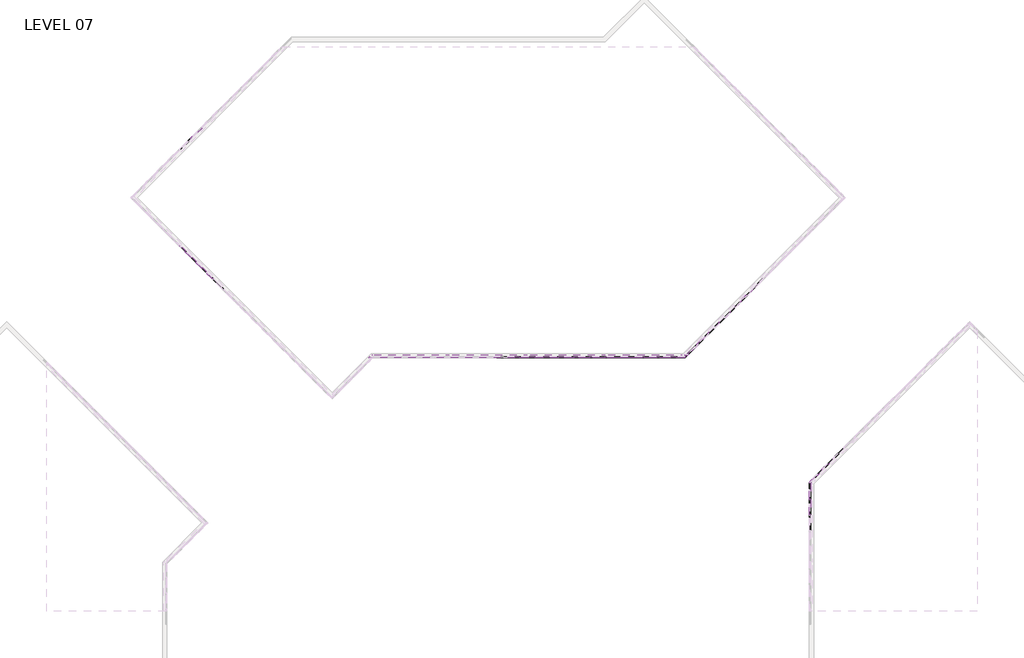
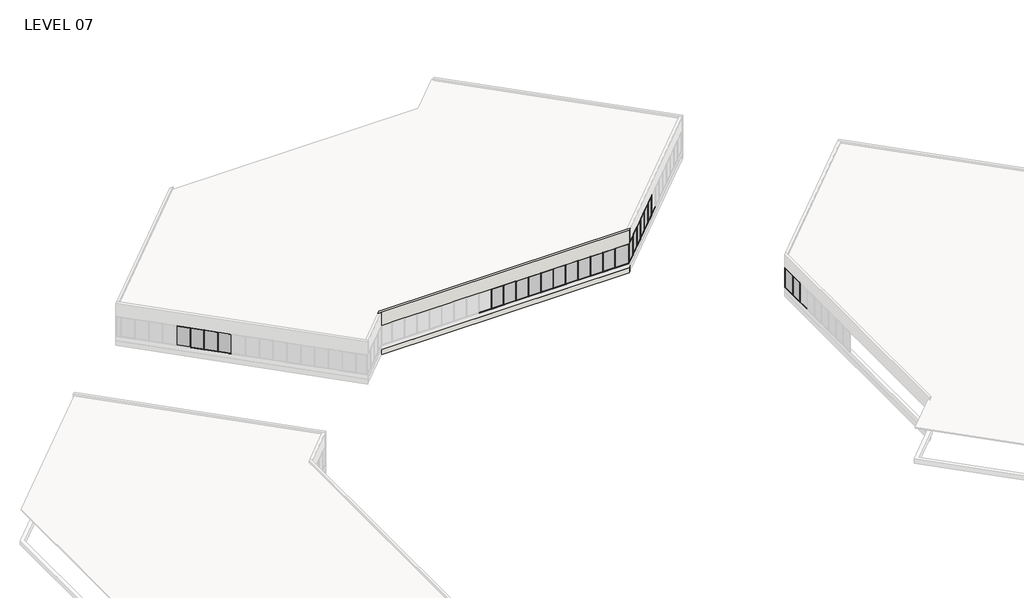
# One storey, part 14 of 18: 82 members, 26 plates, 2 walls.
"""IFC4 building model written with IfcOpenShell, lengths in millimetres."""

from ifc_helpers import new_model, si_unit, origin, place, context, project, spatial, faceted_brep, transform, mapped, element, save
from components import member_5247f267, member_e44af9ab, member_800970d4, member_1bd862b2, member_7ca0f77f, member_c975838b, plate_67294edd, plate_bbcbcabf, plate_e0fd5134, plate_db5d6751

model = new_model("IFC4")

# Units and contexts
model_context = context("Model", 3, world=origin())
ifc_project = project(units=[si_unit("LENGTHUNIT", "METRE", prefix="MILLI")], contexts=[model_context])

# Site, building, storey
site = spatial("IfcSite", under=ifc_project)
building = spatial("IfcBuilding", under=site)
storey = spatial("IfcBuildingStorey", under=building, Name="LEVEL 07", Elevation=23368.0)

# Members
placement = place(None, origin())
member_shape = member_5247f267(model_context)
element("IfcMember", 1, ObjectType="Rectangular Mullion : 2\" x 4.5\" rectangular", at=placement, inside=storey, context=model_context, shape_type="MappedRepresentation", body=[
    mapped(member_shape, transform((776.6134818, 110294.3219224, 23368.0), x_axis=(0.0, 0.0, -1.0), y_axis=(-0.7071067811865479, 0.7071067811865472, 0.0), z_axis=(0.7071067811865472, 0.7071067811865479, 0.0))),
])
element("IfcMember", 2, ObjectType="Rectangular Mullion : 2\" x 4.5\" rectangular", at=placement, inside=storey, context=model_context, shape_type="MappedRepresentation", body=[
    mapped(member_shape, transform((812.713179, 98753.3329903, 23368.0), x_axis=(0.0, 0.0, -1.0), y_axis=(-0.7071067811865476, -0.7071067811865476, 0.0), z_axis=(-0.7071067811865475, 0.7071067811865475, 0.0))),
])
element("IfcMember", 3, ObjectType="Rectangular Mullion : 2\" x 4.5\" rectangular", at=placement, inside=storey, context=model_context, shape_type="MappedRepresentation", body=[
    mapped(member_shape, transform((1890.3439135, 97675.7022558, 23368.0), x_axis=(0.0, 0.0, -1.0), y_axis=(-0.7071067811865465, -0.7071067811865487, 0.0), z_axis=(-0.7071067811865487, 0.7071067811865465, 0.0))),
])
element("IfcMember", 4, ObjectType="Rectangular Mullion : 2\" x 4.5\" rectangular", at=placement, inside=storey, context=model_context, shape_type="MappedRepresentation", body=[
    mapped(member_shape, transform((2967.974648, 96598.0715213, 23368.0), x_axis=(0.0, 0.0, -1.0), y_axis=(-0.7071067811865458, -0.7071067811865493, 0.0), z_axis=(-0.7071067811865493, 0.7071067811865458, 0.0))),
])
element("IfcMember", 5, ObjectType="Rectangular Mullion : 2\" x 4.5\" rectangular", at=placement, inside=storey, context=model_context, shape_type="MappedRepresentation", body=[
    mapped(member_shape, transform((38182.55, 88955.8023049, 23368.0), x_axis=(0.0, 0.0, -1.0), y_axis=(0.0, 1.0, 0.0), z_axis=(1.0, 0.0, 0.0))),
])
element("IfcMember", 6, ObjectType="Rectangular Mullion : 2\" x 4.5\" rectangular", at=placement, inside=storey, context=model_context, shape_type="MappedRepresentation", body=[
    mapped(member_shape, transform((36658.55, 88955.8023049, 23368.0), x_axis=(0.0, 0.0, -1.0), y_axis=(0.0, 1.0, 0.0), z_axis=(1.0, 0.0, 0.0))),
])
element("IfcMember", 7, ObjectType="Rectangular Mullion : 2\" x 4.5\" rectangular", at=placement, inside=storey, context=model_context, shape_type="MappedRepresentation", body=[
    mapped(member_shape, transform((35134.55, 88955.8023049, 23368.0), x_axis=(0.0, 0.0, -1.0), y_axis=(0.0, 1.0, 0.0), z_axis=(1.0, 0.0, 0.0))),
])
element("IfcMember", 8, ObjectType="Rectangular Mullion : 2\" x 4.5\" rectangular", at=placement, inside=storey, context=model_context, shape_type="MappedRepresentation", body=[
    mapped(member_shape, transform((32086.55, 88955.8023049, 23368.0), x_axis=(0.0, 0.0, -1.0), y_axis=(0.0, 1.0, 0.0), z_axis=(1.0, 0.0, 0.0))),
])
element("IfcMember", 9, ObjectType="Rectangular Mullion : 2\" x 4.5\" rectangular", at=placement, inside=storey, context=model_context, shape_type="MappedRepresentation", body=[
    mapped(member_shape, transform((33610.55, 88955.8023049, 23368.0), x_axis=(0.0, 0.0, -1.0), y_axis=(0.0, 1.0, 0.0), z_axis=(1.0, 0.0, 0.0))),
])
element("IfcMember", 10, ObjectType="Rectangular Mullion : 2\" x 4.5\" rectangular", at=placement, inside=storey, context=model_context, shape_type="MappedRepresentation", body=[
    mapped(member_shape, transform((39706.55, 88955.8023049, 23368.0), x_axis=(0.0, 0.0, -1.0), y_axis=(0.0, 1.0, 0.0), z_axis=(1.0, 0.0, 0.0))),
])
element("IfcMember", 11, ObjectType="Rectangular Mullion : 2\" x 4.5\" rectangular", at=placement, inside=storey, context=model_context, shape_type="MappedRepresentation", body=[
    mapped(member_shape, transform((41230.55, 88955.8023049, 23368.0), x_axis=(0.0, 0.0, -1.0), y_axis=(0.0, 1.0, 0.0), z_axis=(1.0, 0.0, 0.0))),
])
element("IfcMember", 12, ObjectType="Rectangular Mullion : 2\" x 4.5\" rectangular", at=placement, inside=storey, context=model_context, shape_type="MappedRepresentation", body=[
    mapped(member_shape, transform((42754.55, 88955.8023049, 23368.0), x_axis=(0.0, 0.0, -1.0), y_axis=(0.0, 1.0, 0.0), z_axis=(1.0, 0.0, 0.0))),
])
element("IfcMember", 13, ObjectType="Rectangular Mullion : 2\" x 4.5\" rectangular", at=placement, inside=storey, context=model_context, shape_type="MappedRepresentation", body=[
    mapped(member_shape, transform((44278.55, 88955.8023049, 23368.0), x_axis=(0.0, 0.0, -1.0), y_axis=(0.0, 1.0, 0.0), z_axis=(1.0, 0.0, 0.0))),
])
element("IfcMember", 14, ObjectType="Rectangular Mullion : 2\" x 4.5\" rectangular", at=placement, inside=storey, context=model_context, shape_type="MappedRepresentation", body=[
    mapped(member_shape, transform((45802.55, 88955.8023049, 23368.0), x_axis=(0.0, 0.0, -1.0), y_axis=(0.0, 1.0, 0.0), z_axis=(1.0, 0.0, 0.0))),
])
element("IfcMember", 15, ObjectType="Rectangular Mullion : 2\" x 4.5\" rectangular", at=placement, inside=storey, context=model_context, shape_type="MappedRepresentation", body=[
    mapped(member_shape, transform((47326.55, 88955.8023049, 23368.0), x_axis=(0.0, 0.0, -1.0), y_axis=(0.0, 1.0, 0.0), z_axis=(1.0, 0.0, 0.0))),
])
element("IfcMember", 16, ObjectType="Rectangular Mullion : 2\" x 4.5\" rectangular", at=placement, inside=storey, context=model_context, shape_type="MappedRepresentation", body=[
    mapped(member_shape, transform((51331.7667125, 91245.9128818, 23368.0), x_axis=(0.0, 0.0, -1.0), y_axis=(0.7071067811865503, -0.7071067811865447, 0.0), z_axis=(-0.7071067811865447, -0.7071067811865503, 0.0))),
])
element("IfcMember", 17, ObjectType="Rectangular Mullion : 2\" x 4.5\" rectangular", at=placement, inside=storey, context=model_context, shape_type="MappedRepresentation", body=[
    mapped(member_shape, transform((52409.397447, 92323.5436163, 23368.0), x_axis=(0.0, 0.0, -1.0), y_axis=(0.7071067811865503, -0.7071067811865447, 0.0), z_axis=(-0.7071067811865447, -0.7071067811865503, 0.0))),
])
element("IfcMember", 18, ObjectType="Rectangular Mullion : 2\" x 4.5\" rectangular", at=placement, inside=storey, context=model_context, shape_type="MappedRepresentation", body=[
    mapped(member_shape, transform((53487.0281815, 93401.1743508, 23368.0), x_axis=(0.0, 0.0, -1.0), y_axis=(0.7071067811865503, -0.7071067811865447, 0.0), z_axis=(-0.7071067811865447, -0.7071067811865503, 0.0))),
])
element("IfcMember", 19, ObjectType="Rectangular Mullion : 2\" x 4.5\" rectangular", at=placement, inside=storey, context=model_context, shape_type="MappedRepresentation", body=[
    mapped(member_shape, transform((55642.2748488, 95556.4210181, 23368.0), x_axis=(0.0, 0.0, -1.0), y_axis=(0.7071067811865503, -0.7071067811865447, 0.0), z_axis=(-0.7071067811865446, -0.7071067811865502, 0.0))),
])
element("IfcMember", 20, ObjectType="Rectangular Mullion : 2\" x 4.5\" rectangular", at=placement, inside=storey, context=model_context, shape_type="MappedRepresentation", body=[
    mapped(member_shape, transform((50254.1359779, 90168.2821472, 23368.0), x_axis=(0.0, 0.0, -1.0), y_axis=(0.7071067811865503, -0.7071067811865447, 0.0), z_axis=(-0.7071067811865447, -0.7071067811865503, 0.0))),
])
element("IfcMember", 21, ObjectType="Rectangular Mullion : 2\" x 4.5\" rectangular", at=placement, inside=storey, context=model_context, shape_type="MappedRepresentation", body=[
    mapped(member_shape, transform((54564.6515152, 94478.7976845, 23368.0), x_axis=(0.0, 0.0, -1.0), y_axis=(0.7071067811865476, -0.7071067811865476, 0.0), z_axis=(-0.7071067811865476, -0.7071067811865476, 0.0))),
])
element("IfcMember", 22, ObjectType="Rectangular Mullion : 2\" x 4.5\" rectangular", at=placement, inside=storey, context=model_context, shape_type="MappedRepresentation", body=[
    mapped(member_shape, transform((812.5345063, 110330.2429469, 25958.8), x_axis=(0.0, 0.0, 1.0), y_axis=(-0.7071067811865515, 0.7071067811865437, 0.0), z_axis=(-0.7071067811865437, -0.7071067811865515, 0.0))),
])
element("IfcMember", 23, ObjectType="Rectangular Mullion : 2\" x 4.5\" rectangular", at=placement, inside=storey, context=model_context, shape_type="MappedRepresentation", body=[
    mapped(member_shape, transform((776.7921545, 98789.2540148, 25958.8), x_axis=(0.0, 0.0, 1.0), y_axis=(-0.7071067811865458, -0.7071067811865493, 0.0), z_axis=(0.7071067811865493, -0.7071067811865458, 0.0))),
])
element("IfcMember", 24, ObjectType="Rectangular Mullion : 2\" x 4.5\" rectangular", at=placement, inside=storey, context=model_context, shape_type="MappedRepresentation", body=[
    mapped(member_shape, transform((1854.422889, 97711.6232803, 25958.8), x_axis=(0.0, 0.0, 1.0), y_axis=(-0.7071067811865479, -0.7071067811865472, 0.0), z_axis=(0.7071067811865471, -0.7071067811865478, 0.0))),
])
element("IfcMember", 25, ObjectType="Rectangular Mullion : 2\" x 4.5\" rectangular", at=placement, inside=storey, context=model_context, shape_type="MappedRepresentation", body=[
    mapped(member_shape, transform((2932.0536235, 96633.9925458, 25958.8), x_axis=(0.0, 0.0, 1.0), y_axis=(-0.7071067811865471, -0.7071067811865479, 0.0), z_axis=(0.7071067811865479, -0.7071067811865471, 0.0))),
])
element("IfcMember", 26, ObjectType="Rectangular Mullion : 2\" x 4.5\" rectangular", at=placement, inside=storey, context=model_context, shape_type="MappedRepresentation", body=[
    mapped(member_shape, transform((38233.35, 88955.8023049, 25958.8), x_axis=(0.0, 0.0, 1.0), y_axis=(0.0, 1.0, 0.0), z_axis=(-1.0, 0.0, 0.0))),
])
element("IfcMember", 27, ObjectType="Rectangular Mullion : 2\" x 4.5\" rectangular", at=placement, inside=storey, context=model_context, shape_type="MappedRepresentation", body=[
    mapped(member_shape, transform((36709.35, 88955.8023049, 25958.8), x_axis=(0.0, 0.0, 1.0), y_axis=(0.0, 1.0, 0.0), z_axis=(-1.0, 0.0, 0.0))),
])
element("IfcMember", 28, ObjectType="Rectangular Mullion : 2\" x 4.5\" rectangular", at=placement, inside=storey, context=model_context, shape_type="MappedRepresentation", body=[
    mapped(member_shape, transform((35185.35, 88955.8023049, 25958.8), x_axis=(0.0, 0.0, 1.0), y_axis=(0.0, 1.0, 0.0), z_axis=(-1.0, 0.0, 0.0))),
])
element("IfcMember", 29, ObjectType="Rectangular Mullion : 2\" x 4.5\" rectangular", at=placement, inside=storey, context=model_context, shape_type="MappedRepresentation", body=[
    mapped(member_shape, transform((32137.35, 88955.8023049, 25958.8), x_axis=(0.0, 0.0, 1.0), y_axis=(0.0, 1.0, 0.0), z_axis=(-1.0, 0.0, 0.0))),
])
element("IfcMember", 30, ObjectType="Rectangular Mullion : 2\" x 4.5\" rectangular", at=placement, inside=storey, context=model_context, shape_type="MappedRepresentation", body=[
    mapped(member_shape, transform((33661.35, 88955.8023049, 25958.8), x_axis=(0.0, 0.0, 1.0), y_axis=(0.0, 1.0, 0.0), z_axis=(-1.0, 0.0, 0.0))),
])
element("IfcMember", 31, ObjectType="Rectangular Mullion : 2\" x 4.5\" rectangular", at=placement, inside=storey, context=model_context, shape_type="MappedRepresentation", body=[
    mapped(member_shape, transform((39757.35, 88955.8023049, 25958.8), x_axis=(0.0, 0.0, 1.0), y_axis=(0.0, 1.0, 0.0), z_axis=(-1.0, 0.0, 0.0))),
])
element("IfcMember", 32, ObjectType="Rectangular Mullion : 2\" x 4.5\" rectangular", at=placement, inside=storey, context=model_context, shape_type="MappedRepresentation", body=[
    mapped(member_shape, transform((41281.35, 88955.8023049, 25958.8), x_axis=(0.0, 0.0, 1.0), y_axis=(0.0, 1.0, 0.0), z_axis=(-1.0, 0.0, 0.0))),
])
element("IfcMember", 33, ObjectType="Rectangular Mullion : 2\" x 4.5\" rectangular", at=placement, inside=storey, context=model_context, shape_type="MappedRepresentation", body=[
    mapped(member_shape, transform((42805.35, 88955.8023049, 25958.8), x_axis=(0.0, 0.0, 1.0), y_axis=(0.0, 1.0, 0.0), z_axis=(-1.0, 0.0, 0.0))),
])
element("IfcMember", 34, ObjectType="Rectangular Mullion : 2\" x 4.5\" rectangular", at=placement, inside=storey, context=model_context, shape_type="MappedRepresentation", body=[
    mapped(member_shape, transform((44329.35, 88955.8023049, 25958.8), x_axis=(0.0, 0.0, 1.0), y_axis=(0.0, 1.0, 0.0), z_axis=(-1.0, 0.0, 0.0))),
])
element("IfcMember", 35, ObjectType="Rectangular Mullion : 2\" x 4.5\" rectangular", at=placement, inside=storey, context=model_context, shape_type="MappedRepresentation", body=[
    mapped(member_shape, transform((45853.35, 88955.8023049, 25958.8), x_axis=(0.0, 0.0, 1.0), y_axis=(0.0, 1.0, 0.0), z_axis=(-1.0, 0.0, 0.0))),
])
element("IfcMember", 36, ObjectType="Rectangular Mullion : 2\" x 4.5\" rectangular", at=placement, inside=storey, context=model_context, shape_type="MappedRepresentation", body=[
    mapped(member_shape, transform((51295.845688, 91209.9918573, 25958.8), x_axis=(0.0, 0.0, 1.0), y_axis=(0.7071067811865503, -0.7071067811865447, 0.0), z_axis=(0.7071067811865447, 0.7071067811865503, 0.0))),
])
element("IfcMember", 37, ObjectType="Rectangular Mullion : 2\" x 4.5\" rectangular", at=placement, inside=storey, context=model_context, shape_type="MappedRepresentation", body=[
    mapped(member_shape, transform((52373.4764225, 92287.6225918, 25958.8), x_axis=(0.0, 0.0, 1.0), y_axis=(0.7071067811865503, -0.7071067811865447, 0.0), z_axis=(0.7071067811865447, 0.7071067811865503, 0.0))),
])
element("IfcMember", 38, ObjectType="Rectangular Mullion : 2\" x 4.5\" rectangular", at=placement, inside=storey, context=model_context, shape_type="MappedRepresentation", body=[
    mapped(member_shape, transform((53451.107157, 93365.2533263, 25958.8), x_axis=(0.0, 0.0, 1.0), y_axis=(0.7071067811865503, -0.7071067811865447, 0.0), z_axis=(0.7071067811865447, 0.7071067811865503, 0.0))),
])
element("IfcMember", 39, ObjectType="Rectangular Mullion : 2\" x 4.5\" rectangular", at=placement, inside=storey, context=model_context, shape_type="MappedRepresentation", body=[
    mapped(member_shape, transform((55606.3538244, 95520.4999937, 25958.8), x_axis=(0.0, 0.0, 1.0), y_axis=(0.7071067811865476, -0.7071067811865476, 0.0), z_axis=(0.7071067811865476, 0.7071067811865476, 0.0))),
])
element("IfcMember", 40, ObjectType="Rectangular Mullion : 2\" x 4.5\" rectangular", at=placement, inside=storey, context=model_context, shape_type="MappedRepresentation", body=[
    mapped(member_shape, transform((54528.7304907, 94442.87666, 25958.8), x_axis=(0.0, 0.0, 1.0), y_axis=(0.7071067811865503, -0.7071067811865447, 0.0), z_axis=(0.7071067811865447, 0.7071067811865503, 0.0))),
])
member_2_shape = member_e44af9ab(model_context)
element("IfcMember", 41, ObjectType="Rectangular Mullion : 2\" x 4.5\" rectangular", at=placement, inside=storey, context=model_context, shape_type="MappedRepresentation", body=[
    mapped(member_2_shape, transform((794.7526667, 98771.2935026, 23368.0), x_axis=(0.7071067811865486, -0.7071067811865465, 0.0), y_axis=(-0.7071067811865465, -0.7071067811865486, 0.0), z_axis=(0.0, 0.0, -1.0))),
])
element("IfcMember", 42, ObjectType="Rectangular Mullion : 2\" x 4.5\" rectangular", at=placement, inside=storey, context=model_context, shape_type="MappedRepresentation", body=[
    mapped(member_2_shape, transform((1872.3834012, 97693.6627681, 23368.0), x_axis=(0.7071067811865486, -0.7071067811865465, 0.0), y_axis=(-0.7071067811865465, -0.7071067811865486, 0.0), z_axis=(0.0, 0.0, -1.0))),
])
element("IfcMember", 43, ObjectType="Rectangular Mullion : 2\" x 4.5\" rectangular", at=placement, inside=storey, context=model_context, shape_type="MappedRepresentation", body=[
    mapped(member_2_shape, transform((2950.0141358, 96616.0320335, 23368.0), x_axis=(0.7071067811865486, -0.7071067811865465, 0.0), y_axis=(-0.7071067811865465, -0.7071067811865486, 0.0), z_axis=(0.0, 0.0, -1.0))),
])
element("IfcMember", 44, ObjectType="Rectangular Mullion : 2\" x 4.5\" rectangular", at=placement, inside=storey, context=model_context, shape_type="MappedRepresentation", body=[
    mapped(member_2_shape, transform((38207.95, 88955.8023049, 23368.0), x_axis=(-1.0, 0.0, 0.0), y_axis=(0.0, 1.0, 0.0), z_axis=(0.0, 0.0, -1.0))),
])
element("IfcMember", 45, ObjectType="Rectangular Mullion : 2\" x 4.5\" rectangular", at=placement, inside=storey, context=model_context, shape_type="MappedRepresentation", body=[
    mapped(member_2_shape, transform((36683.95, 88955.8023049, 23368.0), x_axis=(-1.0, 0.0, 0.0), y_axis=(0.0, 1.0, 0.0), z_axis=(0.0, 0.0, -1.0))),
])
element("IfcMember", 46, ObjectType="Rectangular Mullion : 2\" x 4.5\" rectangular", at=placement, inside=storey, context=model_context, shape_type="MappedRepresentation", body=[
    mapped(member_2_shape, transform((35159.95, 88955.8023049, 23368.0), x_axis=(-1.0, 0.0, 0.0), y_axis=(0.0, 1.0, 0.0), z_axis=(0.0, 0.0, -1.0))),
])
element("IfcMember", 47, ObjectType="Rectangular Mullion : 2\" x 4.5\" rectangular", at=placement, inside=storey, context=model_context, shape_type="MappedRepresentation", body=[
    mapped(member_2_shape, transform((32111.95, 88955.8023049, 23368.0), x_axis=(-1.0, 0.0, 0.0), y_axis=(0.0, 1.0, 0.0), z_axis=(0.0, 0.0, -1.0))),
])
element("IfcMember", 48, ObjectType="Rectangular Mullion : 2\" x 4.5\" rectangular", at=placement, inside=storey, context=model_context, shape_type="MappedRepresentation", body=[
    mapped(member_2_shape, transform((33635.95, 88955.8023049, 23368.0), x_axis=(-1.0, 0.0, 0.0), y_axis=(0.0, 1.0, 0.0), z_axis=(0.0, 0.0, -1.0))),
])
element("IfcMember", 49, ObjectType="Rectangular Mullion : 2\" x 4.5\" rectangular", at=placement, inside=storey, context=model_context, shape_type="MappedRepresentation", body=[
    mapped(member_2_shape, transform((39731.95, 88955.8023049, 23368.0), x_axis=(-1.0, 0.0, 0.0), y_axis=(0.0, 1.0, 0.0), z_axis=(0.0, 0.0, -1.0))),
])
element("IfcMember", 50, ObjectType="Rectangular Mullion : 2\" x 4.5\" rectangular", at=placement, inside=storey, context=model_context, shape_type="MappedRepresentation", body=[
    mapped(member_2_shape, transform((41255.95, 88955.8023049, 23368.0), x_axis=(-1.0, 0.0, 0.0), y_axis=(0.0, 1.0, 0.0), z_axis=(0.0, 0.0, -1.0))),
])
element("IfcMember", 51, ObjectType="Rectangular Mullion : 2\" x 4.5\" rectangular", at=placement, inside=storey, context=model_context, shape_type="MappedRepresentation", body=[
    mapped(member_2_shape, transform((42779.95, 88955.8023049, 23368.0), x_axis=(-1.0, 0.0, 0.0), y_axis=(0.0, 1.0, 0.0), z_axis=(0.0, 0.0, -1.0))),
])
element("IfcMember", 52, ObjectType="Rectangular Mullion : 2\" x 4.5\" rectangular", at=placement, inside=storey, context=model_context, shape_type="MappedRepresentation", body=[
    mapped(member_2_shape, transform((44303.95, 88955.8023049, 23368.0), x_axis=(-1.0, 0.0, 0.0), y_axis=(0.0, 1.0, 0.0), z_axis=(0.0, 0.0, -1.0))),
])
element("IfcMember", 53, ObjectType="Rectangular Mullion : 2\" x 4.5\" rectangular", at=placement, inside=storey, context=model_context, shape_type="MappedRepresentation", body=[
    mapped(member_2_shape, transform((45827.95, 88955.8023049, 23368.0), x_axis=(-1.0, 0.0, 0.0), y_axis=(0.0, 1.0, 0.0), z_axis=(0.0, 0.0, -1.0))),
])
element("IfcMember", 54, ObjectType="Rectangular Mullion : 2\" x 4.5\" rectangular", at=placement, inside=storey, context=model_context, shape_type="MappedRepresentation", body=[
    mapped(member_2_shape, transform((47351.95, 88955.8023049, 23368.0), x_axis=(-1.0, 0.0, 0.0), y_axis=(0.0, 1.0, 0.0), z_axis=(0.0, 0.0, -1.0))),
])
element("IfcMember", 55, ObjectType="Rectangular Mullion : 2\" x 4.5\" rectangular", at=placement, inside=storey, context=model_context, shape_type="MappedRepresentation", body=[
    mapped(member_2_shape, transform((51313.8062002, 91227.9523695, 23368.0), x_axis=(0.7071067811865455, 0.7071067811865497, 0.0), y_axis=(0.7071067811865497, -0.7071067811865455, 0.0), z_axis=(0.0, 0.0, -1.0))),
])
element("IfcMember", 56, ObjectType="Rectangular Mullion : 2\" x 4.5\" rectangular", at=placement, inside=storey, context=model_context, shape_type="MappedRepresentation", body=[
    mapped(member_2_shape, transform((52391.4369347, 92305.583104, 23368.0), x_axis=(0.7071067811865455, 0.7071067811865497, 0.0), y_axis=(0.7071067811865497, -0.7071067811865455, 0.0), z_axis=(0.0, 0.0, -1.0))),
])
element("IfcMember", 57, ObjectType="Rectangular Mullion : 2\" x 4.5\" rectangular", at=placement, inside=storey, context=model_context, shape_type="MappedRepresentation", body=[
    mapped(member_2_shape, transform((53469.0676693, 93383.2138386, 23368.0), x_axis=(0.7071067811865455, 0.7071067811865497, 0.0), y_axis=(0.7071067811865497, -0.7071067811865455, 0.0), z_axis=(0.0, 0.0, -1.0))),
])
element("IfcMember", 58, ObjectType="Rectangular Mullion : 2\" x 4.5\" rectangular", at=placement, inside=storey, context=model_context, shape_type="MappedRepresentation", body=[
    mapped(member_2_shape, transform((55624.3143366, 95538.4605059, 23368.0), x_axis=(0.7071067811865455, 0.7071067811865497, 0.0), y_axis=(0.7071067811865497, -0.7071067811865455, 0.0), z_axis=(0.0, 0.0, -1.0))),
])
element("IfcMember", 59, ObjectType="Rectangular Mullion : 2\" x 4.5\" rectangular", at=placement, inside=storey, context=model_context, shape_type="MappedRepresentation", body=[
    mapped(member_2_shape, transform((50236.1754657, 90150.321635, 23368.0), x_axis=(0.7071067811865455, 0.7071067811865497, 0.0), y_axis=(0.7071067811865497, -0.7071067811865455, 0.0), z_axis=(0.0, 0.0, -1.0))),
])
element("IfcMember", 60, ObjectType="Rectangular Mullion : 2\" x 4.5\" rectangular", at=placement, inside=storey, context=model_context, shape_type="MappedRepresentation", body=[
    mapped(member_2_shape, transform((54546.6910029, 94460.8371722, 23368.0), x_axis=(0.7071067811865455, 0.7071067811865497, 0.0), y_axis=(0.7071067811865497, -0.7071067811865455, 0.0), z_axis=(0.0, 0.0, -1.0))),
])
member_3_shape = member_800970d4(model_context)
element("IfcMember", 61, ObjectType="Rectangular Mullion : 2\" x 4.5\" rectangular", at=placement, inside=storey, context=model_context, shape_type="MappedRepresentation", body=[
    mapped(member_3_shape, transform((49041.6561356, 88955.8023049, 25958.8), x_axis=(1.0, 0.0, 0.0), y_axis=(0.0, 1.0, 0.0), z_axis=(0.0, 0.0, 1.0))),
])
element("IfcMember", 62, ObjectType="Rectangular Mullion : 2\" x 4.5\" rectangular", at=placement, inside=storey, context=model_context, shape_type="MappedRepresentation", body=[
    mapped(member_3_shape, transform((49041.6561356, 88955.8023049, 25958.8), x_axis=(-0.7071067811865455, -0.7071067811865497, 0.0), y_axis=(0.7071067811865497, -0.7071067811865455, 0.0), z_axis=(0.0, 0.0, 1.0))),
])
member_4_shape = member_1bd862b2(model_context)
element("IfcMember", 63, ObjectType="Rectangular Mullion : 2\" x 4.5\" rectangular", at=placement, inside=storey, context=model_context, shape_type="MappedRepresentation", body=[
    mapped(member_4_shape, transform((47377.35, 88955.8023049, 25958.8), x_axis=(0.0, 0.0, 1.0), y_axis=(0.0, 1.0, 0.0), z_axis=(-1.0, 0.0, 0.0))),
])
element("IfcMember", 64, ObjectType="Rectangular Mullion : 2\" x 4.5\" rectangular", at=placement, inside=storey, context=model_context, shape_type="MappedRepresentation", body=[
    mapped(member_4_shape, transform((48990.8561356, 88955.8023049, 23368.0), x_axis=(0.0, 0.0, -1.0), y_axis=(0.0, 1.0, 0.0), z_axis=(1.0, 0.0, 0.0))),
])
member_5_shape = member_7ca0f77f(model_context)
element("IfcMember", 65, ObjectType="Rectangular Mullion : 2\" x 4.5\" rectangular", at=placement, inside=storey, context=model_context, shape_type="MappedRepresentation", body=[
    mapped(member_5_shape, transform((50218.2149534, 90132.3611227, 25958.8), x_axis=(0.0, 0.0, 1.0), y_axis=(0.7071067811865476, -0.7071067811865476, 0.0), z_axis=(0.7071067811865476, 0.7071067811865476, 0.0))),
])
element("IfcMember", 66, ObjectType="Rectangular Mullion : 2\" x 4.5\" rectangular", at=placement, inside=storey, context=model_context, shape_type="MappedRepresentation", body=[
    mapped(member_5_shape, transform((49077.5771601, 88991.7233294, 23368.0), x_axis=(0.0, 0.0, -1.0), y_axis=(0.7071067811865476, -0.7071067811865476, 0.0), z_axis=(-0.7071067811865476, -0.7071067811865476, 0.0))),
])
element("IfcMember", 67, ObjectType="Rectangular Mullion : 2\" x 4.5\" rectangular", at=placement, inside=storey, context=model_context, shape_type="MappedRepresentation", body=[
    mapped(member_shape, transform((61263.7847164, 73545.3675885, 25958.8), x_axis=(0.0, 0.0, 1.0), y_axis=(-1.0, 0.0, 0.0), z_axis=(0.0, -1.0, 0.0))),
])
element("IfcMember", 68, ObjectType="Rectangular Mullion : 2\" x 4.5\" rectangular", at=placement, inside=storey, context=model_context, shape_type="MappedRepresentation", body=[
    mapped(member_shape, transform((63517.9742688, 78987.8632765, 25958.8), x_axis=(0.0, 0.0, 1.0), y_axis=(0.7071067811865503, -0.7071067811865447, 0.0), z_axis=(0.7071067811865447, 0.7071067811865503, 0.0))),
])
element("IfcMember", 69, ObjectType="Rectangular Mullion : 2\" x 4.5\" rectangular", at=placement, inside=storey, context=model_context, shape_type="MappedRepresentation", body=[
    mapped(member_shape, transform((61263.7847164, 73494.5675885, 23368.0), x_axis=(0.0, 0.0, -1.0), y_axis=(-1.0, 0.0, 0.0), z_axis=(0.0, 1.0, 0.0))),
])
element("IfcMember", 70, ObjectType="Rectangular Mullion : 2\" x 4.5\" rectangular", at=placement, inside=storey, context=model_context, shape_type="MappedRepresentation", body=[
    mapped(member_shape, transform((61263.7847164, 75018.5675885, 23368.0), x_axis=(0.0, 0.0, -1.0), y_axis=(-1.0, 0.0, 0.0), z_axis=(0.0, 1.0, 0.0))),
])
element("IfcMember", 71, ObjectType="Rectangular Mullion : 2\" x 4.5\" rectangular", at=placement, inside=storey, context=model_context, shape_type="MappedRepresentation", body=[
    mapped(member_shape, transform((63553.8952932, 79023.784301, 23368.0), x_axis=(0.0, 0.0, -1.0), y_axis=(0.7071067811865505, -0.7071067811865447, 0.0), z_axis=(-0.7071067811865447, -0.7071067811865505, 0.0))),
])
element("IfcMember", 72, ObjectType="Rectangular Mullion : 2\" x 4.5\" rectangular", at=placement, inside=storey, context=model_context, shape_type="MappedRepresentation", body=[
    mapped(member_shape, transform((62476.2645587, 77946.1535665, 23368.0), x_axis=(0.0, 0.0, -1.0), y_axis=(0.7071067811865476, -0.7071067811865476, 0.0), z_axis=(-0.7071067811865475, -0.7071067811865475, 0.0))),
])
element("IfcMember", 73, ObjectType="Rectangular Mullion : 2\" x 4.5\" rectangular", at=placement, inside=storey, context=model_context, shape_type="MappedRepresentation", body=[
    mapped(member_2_shape, transform((61263.7847164, 73519.9675885, 23368.0), x_axis=(0.0, -1.0, 0.0), y_axis=(-1.0, 0.0, 0.0), z_axis=(0.0, 0.0, -1.0))),
])
element("IfcMember", 74, ObjectType="Rectangular Mullion : 2\" x 4.5\" rectangular", at=placement, inside=storey, context=model_context, shape_type="MappedRepresentation", body=[
    mapped(member_2_shape, transform((61263.7847164, 75043.9675885, 23368.0), x_axis=(0.0, -1.0, 0.0), y_axis=(-1.0, 0.0, 0.0), z_axis=(0.0, 0.0, -1.0))),
])
element("IfcMember", 75, ObjectType="Rectangular Mullion : 2\" x 4.5\" rectangular", at=placement, inside=storey, context=model_context, shape_type="MappedRepresentation", body=[
    mapped(member_2_shape, transform((63535.934781, 79005.8237887, 23368.0), x_axis=(0.7071067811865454, 0.7071067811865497, 0.0), y_axis=(0.7071067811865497, -0.7071067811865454, 0.0), z_axis=(0.0, 0.0, -1.0))),
])
element("IfcMember", 76, ObjectType="Rectangular Mullion : 2\" x 4.5\" rectangular", at=placement, inside=storey, context=model_context, shape_type="MappedRepresentation", body=[
    mapped(member_2_shape, transform((62458.3040465, 77928.1930542, 23368.0), x_axis=(0.7071067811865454, 0.7071067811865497, 0.0), y_axis=(0.7071067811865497, -0.7071067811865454, 0.0), z_axis=(0.0, 0.0, -1.0))),
])
element("IfcMember", 77, ObjectType="Rectangular Mullion : 2\" x 4.5\" rectangular", at=placement, inside=storey, context=model_context, shape_type="MappedRepresentation", body=[
    mapped(member_3_shape, transform((61263.7847164, 76733.6737241, 25958.8), x_axis=(0.0, 1.0, 0.0), y_axis=(-1.0, 0.0, 0.0), z_axis=(0.0, 0.0, 1.0))),
])
element("IfcMember", 78, ObjectType="Rectangular Mullion : 2\" x 4.5\" rectangular", at=placement, inside=storey, context=model_context, shape_type="MappedRepresentation", body=[
    mapped(member_3_shape, transform((61263.7847164, 76733.6737241, 25958.8), x_axis=(-0.7071067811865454, -0.7071067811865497, 0.0), y_axis=(0.7071067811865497, -0.7071067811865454, 0.0), z_axis=(0.0, 0.0, 1.0))),
])
element("IfcMember", 79, ObjectType="Rectangular Mullion : 2\" x 4.5\" rectangular", at=placement, inside=storey, context=model_context, shape_type="MappedRepresentation", body=[
    mapped(member_4_shape, transform((61263.7847164, 76682.8737241, 23368.0), x_axis=(0.0, 0.0, -1.0), y_axis=(-1.0, 0.0, 0.0), z_axis=(0.0, 1.0, 0.0))),
])
element("IfcMember", 80, ObjectType="Rectangular Mullion : 2\" x 4.5\" rectangular", at=placement, inside=storey, context=model_context, shape_type="MappedRepresentation", body=[
    mapped(member_4_shape, transform((61263.7847164, 75069.3675885, 25958.8), x_axis=(0.0, 0.0, 1.0), y_axis=(-1.0, 0.0, 0.0), z_axis=(0.0, -1.0, 0.0))),
])
member_6_shape = member_c975838b(model_context)
element("IfcMember", 81, ObjectType="Rectangular Mullion : 2\" x 4.5\" rectangular", at=placement, inside=storey, context=model_context, shape_type="MappedRepresentation", body=[
    mapped(member_6_shape, transform((61299.7057409, 76769.5947486, 23368.0), x_axis=(0.0, 0.0, -1.0), y_axis=(0.7071067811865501, -0.7071067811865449, 0.0), z_axis=(-0.7071067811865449, -0.7071067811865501, 0.0))),
])
element("IfcMember", 82, ObjectType="Rectangular Mullion : 2\" x 4.5\" rectangular", at=placement, inside=storey, context=model_context, shape_type="MappedRepresentation", body=[
    mapped(member_6_shape, transform((62440.3435342, 77910.232542, 25958.8), x_axis=(0.0, 0.0, 1.0), y_axis=(0.7071067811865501, -0.7071067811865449, 0.0), z_axis=(0.7071067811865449, 0.7071067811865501, 0.0))),
])

# Plates
plate_shape = plate_67294edd(model_context)
element("IfcPlate", 83, ObjectType="System Panel : 1/4\" Glass", at=placement, inside=storey, context=model_context, shape_type="MappedRepresentation", body=[
    mapped(plate_shape, transform((255.7586268, 109773.4670674, 23418.8), x_axis=(-0.7071067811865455, -0.7071067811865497, 0.0), y_axis=(0.7071067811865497, -0.7071067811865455, 0.0), z_axis=(0.0, 0.0, 1.0))),
])
element("IfcPlate", 84, ObjectType="System Panel : 1/4\" Glass", at=placement, inside=storey, context=model_context, shape_type="MappedRepresentation", body=[
    mapped(plate_shape, transform((1333.568034, 98232.4781353, 23418.8), x_axis=(0.7071067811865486, -0.7071067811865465, 0.0), y_axis=(0.7071067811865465, 0.7071067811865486, 0.0), z_axis=(0.0, 0.0, 1.0))),
])
element("IfcPlate", 85, ObjectType="System Panel : 1/4\" Glass", at=placement, inside=storey, context=model_context, shape_type="MappedRepresentation", body=[
    mapped(plate_shape, transform((2411.1987685, 97154.8474008, 23418.8), x_axis=(0.7071067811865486, -0.7071067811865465, 0.0), y_axis=(0.7071067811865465, 0.7071067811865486, 0.0), z_axis=(0.0, 0.0, 1.0))),
])
element("IfcPlate", 86, ObjectType="System Panel : 1/4\" Glass", at=placement, inside=storey, context=model_context, shape_type="MappedRepresentation", body=[
    mapped(plate_shape, transform((3488.829503, 96077.2166663, 23418.8), x_axis=(0.7071067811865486, -0.7071067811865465, 0.0), y_axis=(0.7071067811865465, 0.7071067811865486, 0.0), z_axis=(0.0, 0.0, 1.0))),
])
element("IfcPlate", 87, ObjectType="System Panel : 1/4\" Glass", at=placement, inside=storey, context=model_context, shape_type="MappedRepresentation", body=[
    mapped(plate_shape, transform((255.9372995, 99310.1088698, 23418.8), x_axis=(0.7071067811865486, -0.7071067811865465, 0.0), y_axis=(0.7071067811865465, 0.7071067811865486, 0.0), z_axis=(0.0, 0.0, 1.0))),
])
element("IfcPlate", 88, ObjectType="System Panel : 1/4\" Glass", at=placement, inside=storey, context=model_context, shape_type="MappedRepresentation", body=[
    mapped(plate_shape, transform((37445.95, 88955.8023049, 23418.8), x_axis=(-1.0, 0.0, 0.0), y_axis=(0.0, -1.0, 0.0), z_axis=(0.0, 0.0, 1.0))),
])
element("IfcPlate", 89, ObjectType="System Panel : 1/4\" Glass", at=placement, inside=storey, context=model_context, shape_type="MappedRepresentation", body=[
    mapped(plate_shape, transform((35921.95, 88955.8023049, 23418.8), x_axis=(-1.0, 0.0, 0.0), y_axis=(0.0, -1.0, 0.0), z_axis=(0.0, 0.0, 1.0))),
])
element("IfcPlate", 90, ObjectType="System Panel : 1/4\" Glass", at=placement, inside=storey, context=model_context, shape_type="MappedRepresentation", body=[
    mapped(plate_shape, transform((34397.95, 88955.8023049, 23418.8), x_axis=(-1.0, 0.0, 0.0), y_axis=(0.0, -1.0, 0.0), z_axis=(0.0, 0.0, 1.0))),
])
element("IfcPlate", 91, ObjectType="System Panel : 1/4\" Glass", at=placement, inside=storey, context=model_context, shape_type="MappedRepresentation", body=[
    mapped(plate_shape, transform((32873.95, 88955.8023049, 23418.8), x_axis=(-1.0, 0.0, 0.0), y_axis=(0.0, -1.0, 0.0), z_axis=(0.0, 0.0, 1.0))),
])
element("IfcPlate", 92, ObjectType="System Panel : 1/4\" Glass", at=placement, inside=storey, context=model_context, shape_type="MappedRepresentation", body=[
    mapped(plate_shape, transform((38969.95, 88955.8023049, 23418.8), x_axis=(-1.0, 0.0, 0.0), y_axis=(0.0, -1.0, 0.0), z_axis=(0.0, 0.0, 1.0))),
])
element("IfcPlate", 93, ObjectType="System Panel : 1/4\" Glass", at=placement, inside=storey, context=model_context, shape_type="MappedRepresentation", body=[
    mapped(plate_shape, transform((40493.95, 88955.8023049, 23418.8), x_axis=(-1.0, 0.0, 0.0), y_axis=(0.0, -1.0, 0.0), z_axis=(0.0, 0.0, 1.0))),
])
element("IfcPlate", 94, ObjectType="System Panel : 1/4\" Glass", at=placement, inside=storey, context=model_context, shape_type="MappedRepresentation", body=[
    mapped(plate_shape, transform((42017.95, 88955.8023049, 23418.8), x_axis=(-1.0, 0.0, 0.0), y_axis=(0.0, -1.0, 0.0), z_axis=(0.0, 0.0, 1.0))),
])
element("IfcPlate", 95, ObjectType="System Panel : 1/4\" Glass", at=placement, inside=storey, context=model_context, shape_type="MappedRepresentation", body=[
    mapped(plate_shape, transform((43541.95, 88955.8023049, 23418.8), x_axis=(-1.0, 0.0, 0.0), y_axis=(0.0, -1.0, 0.0), z_axis=(0.0, 0.0, 1.0))),
])
element("IfcPlate", 96, ObjectType="System Panel : 1/4\" Glass", at=placement, inside=storey, context=model_context, shape_type="MappedRepresentation", body=[
    mapped(plate_shape, transform((45065.95, 88955.8023049, 23418.8), x_axis=(-1.0, 0.0, 0.0), y_axis=(0.0, -1.0, 0.0), z_axis=(0.0, 0.0, 1.0))),
])
element("IfcPlate", 97, ObjectType="System Panel : 1/4\" Glass", at=placement, inside=storey, context=model_context, shape_type="MappedRepresentation", body=[
    mapped(plate_shape, transform((46589.95, 88955.8023049, 23418.8), x_axis=(-1.0, 0.0, 0.0), y_axis=(0.0, -1.0, 0.0), z_axis=(0.0, 0.0, 1.0))),
])
element("IfcPlate", 98, ObjectType="System Panel : 1/4\" Glass", at=placement, inside=storey, context=model_context, shape_type="MappedRepresentation", body=[
    mapped(plate_shape, transform((51852.6215675, 91766.7677368, 23418.8), x_axis=(0.7071067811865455, 0.7071067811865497, 0.0), y_axis=(-0.7071067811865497, 0.7071067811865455, 0.0), z_axis=(0.0, 0.0, 1.0))),
])
element("IfcPlate", 99, ObjectType="System Panel : 1/4\" Glass", at=placement, inside=storey, context=model_context, shape_type="MappedRepresentation", body=[
    mapped(plate_shape, transform((52930.252302, 92844.3984713, 23418.8), x_axis=(0.7071067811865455, 0.7071067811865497, 0.0), y_axis=(-0.7071067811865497, 0.7071067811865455, 0.0), z_axis=(0.0, 0.0, 1.0))),
])
element("IfcPlate", 100, ObjectType="System Panel : 1/4\" Glass", at=placement, inside=storey, context=model_context, shape_type="MappedRepresentation", body=[
    mapped(plate_shape, transform((50774.990833, 90689.1370023, 23418.8), x_axis=(0.7071067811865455, 0.7071067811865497, 0.0), y_axis=(-0.7071067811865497, 0.7071067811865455, 0.0), z_axis=(0.0, 0.0, 1.0))),
])
plate_2_shape = plate_bbcbcabf(model_context)
element("IfcPlate", 101, ObjectType="System Panel : 1/4\" Glass", at=placement, inside=storey, context=model_context, shape_type="MappedRepresentation", body=[
    mapped(plate_2_shape, transform((48184.1030678, 88955.8023049, 23418.8), x_axis=(-1.0, 0.0, 0.0), y_axis=(0.0, -1.0, 0.0), z_axis=(0.0, 0.0, 1.0))),
])
plate_3_shape = plate_e0fd5134(model_context)
element("IfcPlate", 102, ObjectType="System Panel : 1/4\" Glass", at=placement, inside=storey, context=model_context, shape_type="MappedRepresentation", body=[
    mapped(plate_3_shape, transform((54007.8793361, 93922.0255054, 23418.8), x_axis=(0.7071067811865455, 0.7071067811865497, 0.0), y_axis=(-0.7071067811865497, 0.7071067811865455, 0.0), z_axis=(0.0, 0.0, 1.0))),
])
element("IfcPlate", 103, ObjectType="System Panel : 1/4\" Glass", at=placement, inside=storey, context=model_context, shape_type="MappedRepresentation", body=[
    mapped(plate_3_shape, transform((55085.5026698, 94999.6488391, 23418.8), x_axis=(0.7071067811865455, 0.7071067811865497, 0.0), y_axis=(-0.7071067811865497, 0.7071067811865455, 0.0), z_axis=(0.0, 0.0, 1.0))),
])
plate_4_shape = plate_db5d6751(model_context)
element("IfcPlate", 104, ObjectType="System Panel : 1/4\" Glass", at=placement, inside=storey, context=model_context, shape_type="MappedRepresentation", body=[
    mapped(plate_4_shape, transform((49647.8960568, 89562.0422261, 23418.8), x_axis=(0.7071067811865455, 0.7071067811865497, 0.0), y_axis=(-0.7071067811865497, 0.7071067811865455, 0.0), z_axis=(0.0, 0.0, 1.0))),
])
element("IfcPlate", 105, ObjectType="System Panel : 1/4\" Glass", at=placement, inside=storey, context=model_context, shape_type="MappedRepresentation", body=[
    mapped(plate_shape, transform((61263.7847164, 74281.9675885, 23418.8), x_axis=(0.0, -1.0, 0.0), y_axis=(1.0, 0.0, 0.0), z_axis=(0.0, 0.0, 1.0))),
])
element("IfcPlate", 106, ObjectType="System Panel : 1/4\" Glass", at=placement, inside=storey, context=model_context, shape_type="MappedRepresentation", body=[
    mapped(plate_shape, transform((62997.1194137, 78467.0084215, 23418.8), x_axis=(0.7071067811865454, 0.7071067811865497, 0.0), y_axis=(-0.7071067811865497, 0.7071067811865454, 0.0), z_axis=(0.0, 0.0, 1.0))),
])
element("IfcPlate", 107, ObjectType="System Panel : 1/4\" Glass", at=placement, inside=storey, context=model_context, shape_type="MappedRepresentation", body=[
    mapped(plate_2_shape, transform((61263.7847164, 75876.1206563, 23418.8), x_axis=(0.0, -1.0, 0.0), y_axis=(1.0, 0.0, 0.0), z_axis=(0.0, 0.0, 1.0))),
])
element("IfcPlate", 108, ObjectType="System Panel : 1/4\" Glass", at=placement, inside=storey, context=model_context, shape_type="MappedRepresentation", body=[
    mapped(plate_4_shape, transform((61870.0246376, 77339.9136453, 23418.8), x_axis=(0.7071067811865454, 0.7071067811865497, 0.0), y_axis=(-0.7071067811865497, 0.7071067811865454, 0.0), z_axis=(0.0, 0.0, 1.0))),
])

# Walls
element("IfcWall", 109, ObjectType="01-CONCRETE-12", at=placement, inside=storey, context=model_context, shape_type="Brep", body=[
    faceted_brep([(49370.1284407, 89203.4523049, 22186.9), (48939.0761469, 89203.4523049, 22186.9), (48656.8136083, 89203.4523049, 22186.9), (41560.75, 89203.4523049, 22186.9), (40951.15, 89203.4523049, 22186.9), (33940.75, 89203.4523049, 22186.9), (33331.15, 89203.4523049, 22186.9), (26320.75, 89203.4523049, 22186.9), (25711.15, 89203.4523049, 22186.9), (18700.75, 89203.4523049, 22186.9), (18459.0761469, 89203.4523049, 22186.9), (18459.0761469, 89203.4523049, 22809.2), (18700.75, 89203.4523049, 22809.2), (25711.15, 89203.4523049, 22809.2), (26320.75, 89203.4523049, 22809.2), (33331.15, 89203.4523049, 22809.2), (33940.75, 89203.4523049, 22809.2), (40951.15, 89203.4523049, 22809.2), (41560.75, 89203.4523049, 22809.2), (48656.8136083, 89203.4523049, 22809.2), (48939.0761469, 89203.4523049, 22809.2), (49370.1284407, 89203.4523049, 22809.2), (49065.3284407, 88898.6523049, 22186.9), (49065.3284407, 88898.6523049, 22809.2), (18585.3284407, 88898.6523049, 22809.2), (18154.2761469, 88898.6523049, 22809.2), (18154.2761469, 88898.6523049, 22186.9), (18585.3284407, 88898.6523049, 22186.9), (18408.2761469, 89152.6523049, 22186.9), (18408.2761469, 89152.6523049, 22809.2)], [[[0, 1, 2, 3, 4, 5, 6, 7, 8, 9, 10, 11, 12, 13, 14, 15, 16, 17, 18, 19, 20, 21]], [[22, 23, 24, 25, 26, 27]], [[10, 9, 8, 7, 6, 5, 4, 3, 2, 1, 0, 22, 27, 26, 28]], [[21, 20, 19, 18, 17, 16, 15, 14, 13, 12, 11, 29, 25, 24, 23]], [[11, 10, 28, 26, 25, 29]], [[0, 21, 23, 22]]]),
])
element("IfcWall", 110, ObjectType="01-CONCRETE-12", at=placement, inside=storey, context=model_context, shape_type="Brep", body=[
    faceted_brep([(49370.1284407, 89203.4523049, 25958.8), (48939.0761469, 89203.4523049, 25958.8), (48656.8136083, 89203.4523049, 25958.8), (41560.75, 89203.4523049, 25958.8), (40951.15, 89203.4523049, 25958.8), (33940.75, 89203.4523049, 25958.8), (33331.15, 89203.4523049, 25958.8), (26320.75, 89203.4523049, 25958.8), (25711.15, 89203.4523049, 25958.8), (18700.75, 89203.4523049, 25958.8), (18459.0761469, 89203.4523049, 25958.8), (18459.0761469, 89203.4523049, 26111.2), (18459.0761469, 89203.4523049, 27673.3), (48939.0761469, 89203.4523049, 27673.3), (49370.1284407, 89203.4523049, 27673.3), (49065.3284407, 88898.6523049, 25958.8), (49065.3284407, 88898.6523049, 27673.3), (18585.3284407, 88898.6523049, 27673.3), (18154.2761469, 88898.6523049, 27673.3), (18154.2761469, 88898.6523049, 25958.8), (18585.3284407, 88898.6523049, 25958.8), (18408.2761469, 89152.6523049, 25958.8)], [[[0, 1, 2, 3, 4, 5, 6, 7, 8, 9, 10, 11, 12, 13, 14]], [[15, 16, 17, 18, 19, 20]], [[10, 9, 8, 7, 6, 5, 4, 3, 2, 1, 0, 15, 20, 19, 21]], [[14, 13, 12, 18, 17, 16]], [[12, 11, 10, 21, 19, 18]], [[0, 14, 16, 15]]]),
])

save(model, "model.ifc")
